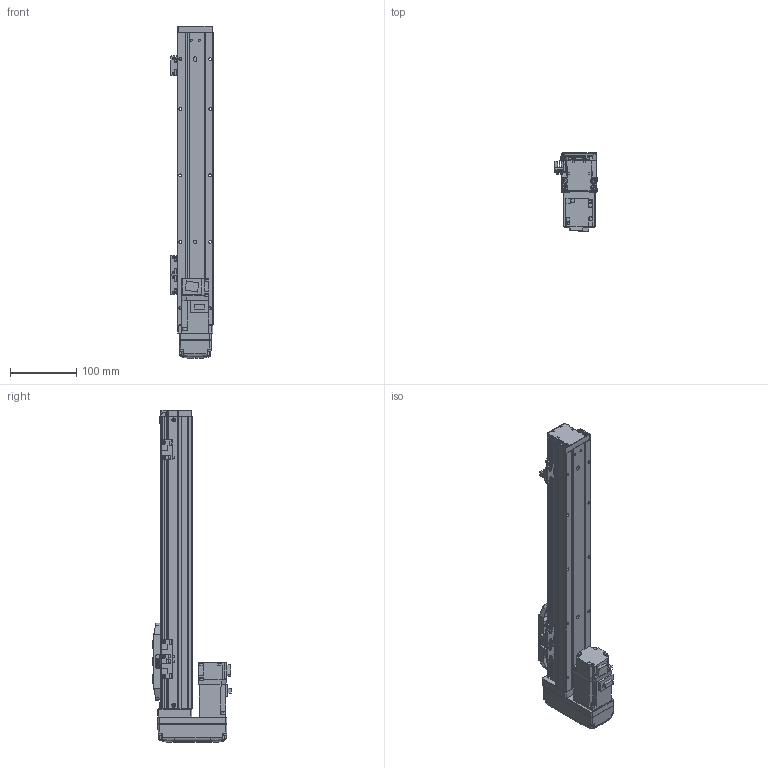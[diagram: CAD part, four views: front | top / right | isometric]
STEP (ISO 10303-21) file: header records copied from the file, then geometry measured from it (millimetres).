
FILE_DESCRIPTION (( 'STEP AP203' ), '1' );
FILE_NAME ('GTH5-300-BM-M10-C4.step', '2022-09-23T00:47:08', ( '微软用户' ), ( '微软中国' ), 'SwSTEP 2.0', 'SolidWorks 2020', '' );
FILE_SCHEMA (( 'CONFIG_CONTROL_DESIGN' ));
Length unit declared in the file: millimetre
Products named in the file (19): GTH50-027-1_BTHA50-027-2; BTH-M3X5X6; GBT96.1-2002 3×0.8; GTH50-026; GTH50-001_300; GTH50-024; GTH5-300-BM-M10-C4; GBT 70.1-M4×16; GBT 70.1-M2.5×6; GTH50-003; GTH50-028; GTH50-006; GTH50-013; GTH50-022-1; GTH50-004; GTH50-023; HG-KR13; GBT 70.3-M3℅6; GBT 70.1-M3℅6
Assembly tree (57 placements, depth 2):
  GTH5-300-BM-M10-C4
    GTH50-006
    GTH50-004
    GBT 70.3-M3℅6  x4
    BTH-M3X5X6  x8
    GTH50-001_300
    GBT 70.1-M4×16  x8
    GTH50-003
    GTH50-013
    GTH50-023  x3
    GBT 70.1-M3℅6  x12
    GBT96.1-2002 3×0.8  x6
    GTH50-024  x3
    GBT 70.1-M2.5×6  x2
    GTH50-028  x2
    GTH50-022-1
    HG-KR13
    GTH50-027-1_BTHA50-027-2
    GTH50-026
Bounding box: 63.8 x 118.9 x 500 mm (x, y, z)
Volume: 1203663.5 mm3; surface area: 231709.5 mm2
Topology: 59 solids, 59 shells, 2148 faces, 4980 edges, 3052 vertices
Faces by surface type: plane 1142, cylinder 577, cone 219, torus 162, bspline 40, sphere 8
Entity records: 39716 total; most frequent: CARTESIAN_POINT 7875, DIRECTION 6101, ORIENTED_EDGE 5874, EDGE_CURVE 2937, AXIS2_PLACEMENT_3D 2116, VECTOR 1869, LINE 1869, VERTEX_POINT 1854
